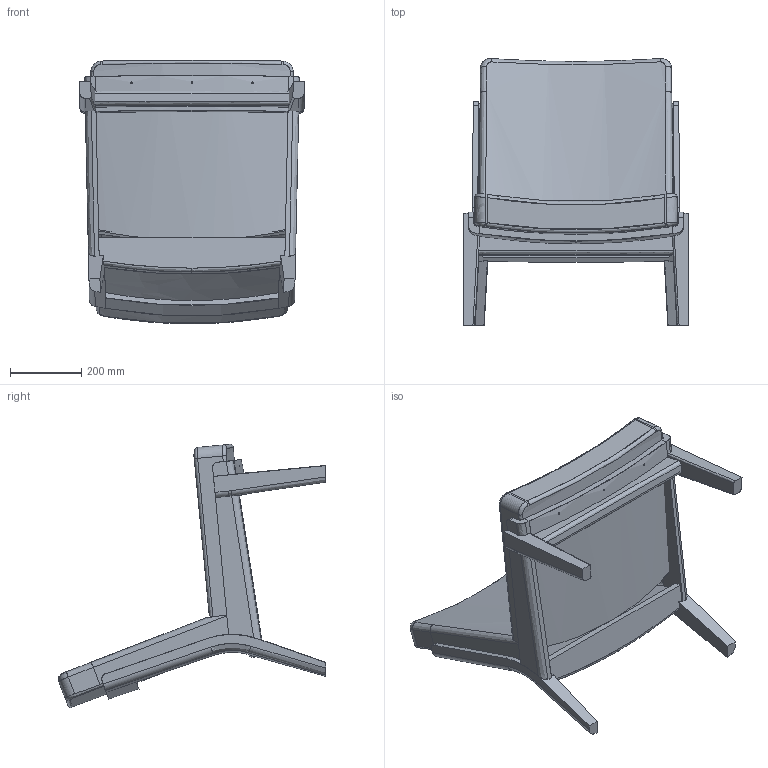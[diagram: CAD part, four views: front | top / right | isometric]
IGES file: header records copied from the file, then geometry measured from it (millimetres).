
Start section: SolidWorks IGES file using analytic representation for surfaces
Global section: file name: C:\Users\Kuma\Desktop\781  Bund Lounge Chair_vb_2016-04-08.IGS; native system: SolidWorks 2016; preprocessor: SolidWorks 2016; author: kuma; date: 160408.150310; units: millimetre
Bounding box: 634.36 x 752.05 x 741.13 mm (x, y, z)
Surface area: 2149586.8 mm2 (no closed solid volume)
Topology: 0 solids, 0 shells, 149 faces, 2379 edges, 2379 vertices
Faces by surface type: bspline 118, revolution 31
